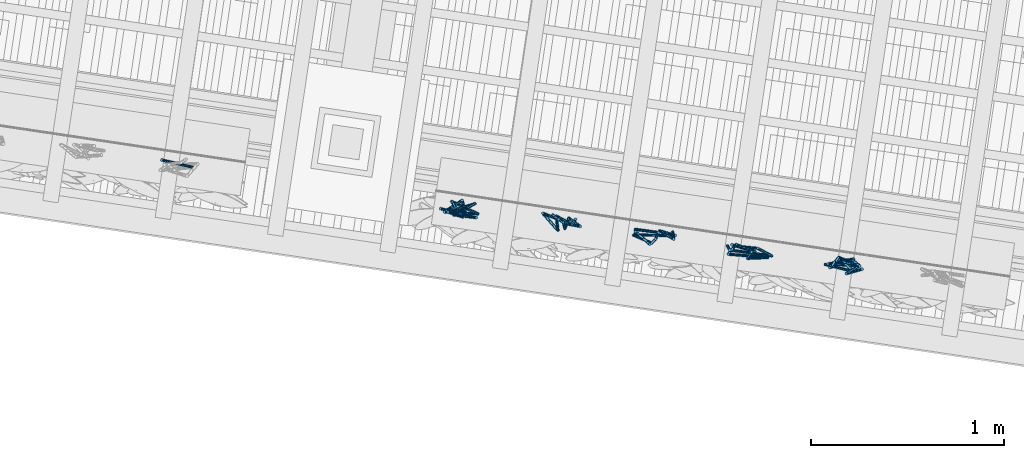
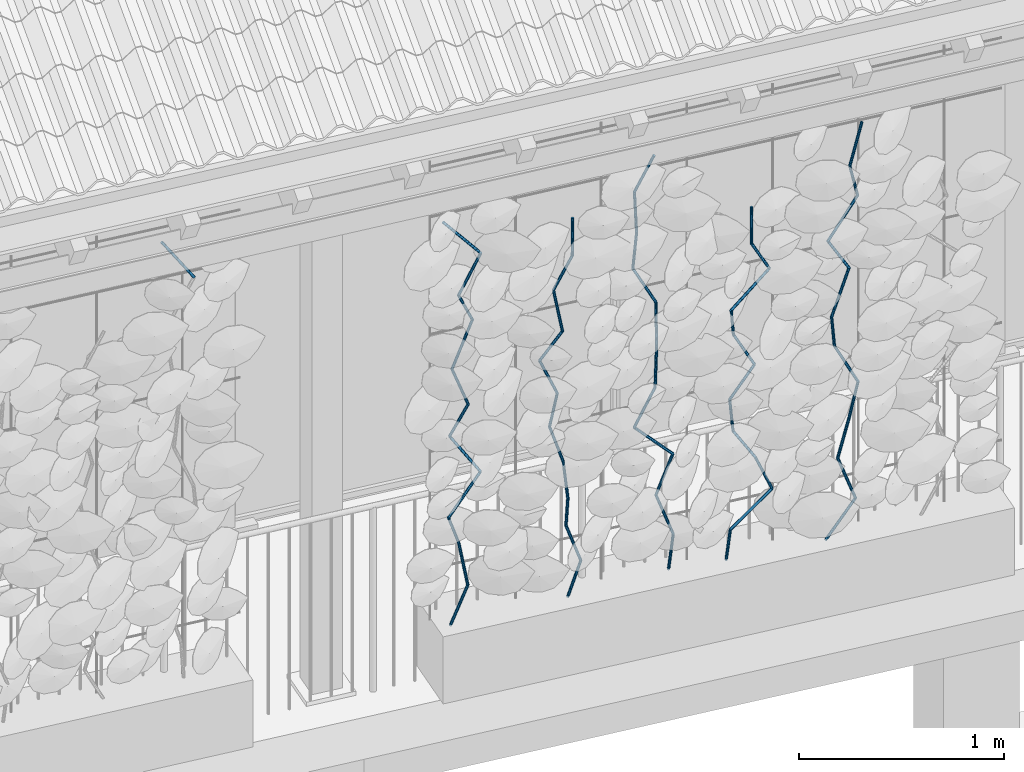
# One storey, part 111 of 131: 56 members, 1 element without a shape of its own.
"""IFC4 building model written with IfcOpenShell, lengths in metres."""

from ifc_helpers import new_model, si_unit, direction, frame, origin_with_axes, place, context, subcontext, project, spatial, circle, extrude, material, material_profile, profile_set, profile_usage, type_object, element, aggregate, save


model = new_model("IFC4")

# Units and contexts
model_context = context("Model", 3, precision=1e-05, world=origin_with_axes(), true_north=direction((0.0, 1.0)))
body_context = subcontext(model_context, "Body", "Model", "MODEL_VIEW")
ifc_project = project(units=[si_unit("VOLUMEUNIT", "CUBIC_METRE"), si_unit("LENGTHUNIT", "METRE"), si_unit("AREAUNIT", "SQUARE_METRE")], contexts=[model_context])

# Site, building, storey
site_placement = place(None, origin_with_axes())
site = spatial("IfcSite", under=ifc_project, at=site_placement, Name="Lares · Rua das Mercês · artigo 4771")
building_placement = place(site_placement, frame((15.0, 9.7, 15.8), z_axis=(0.0, 0.0, 1.0), x_axis=(0.989015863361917, -0.147809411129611, 0.0)))
building = spatial("IfcBuilding", under=site, at=building_placement, Name="Casa Sobreposta")
storey_placement = place(building_placement, origin_with_axes())
storey = spatial("IfcBuildingStorey", under=building, at=storey_placement, Name="00 · Habitação e estacionamento", Elevation=15.8)

# Assembly, members
assembly_placement = place(storey_placement, origin_with_axes())
assembly = element("IfcElementAssembly", 1, at=assembly_placement, inside=storey, Name="Fachada sul e pátio · estrutura e trepadeiras", ObjectType="LIVING_SHADE_TRELLIS", PredefinedType="USERDEFINED")
ifc_material = material(Name="Ramos de trepadeiras", Category="wood")
ifc_material_profile = material_profile(ifc_material, circle(Radius=0.0075))
ifc_profile_set = profile_set([ifc_material_profile], Name="D0.015")
ifc_profile_usage_1 = profile_usage(ifc_profile_set)
member_type = type_object("IfcMemberType", Name="D0.015 / vine_wood", PredefinedType="NOTDEFINED", material=ifc_profile_set)
member_1_placement = place(assembly_placement, frame((7.23474706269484, -1.67516306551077, 2.75997895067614), z_axis=(-0.561074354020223, 0.0463893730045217, 0.826464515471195), x_axis=(0.0823983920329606, 0.996599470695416, 0.0)))
member_1 = element("IfcMember", 2, at=member_1_placement, type_object=member_type, material=ifc_profile_usage_1, Name="Trepadeiras · ramo", context=body_context, shape_type="SweptSolid", body=[
    extrude(circle(Radius=0.0075), origin_with_axes(), (0.0, 0.0, 1.0), 0.29160101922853),
])
ifc_profile_usage_2 = profile_usage(ifc_profile_set)
member_2_placement = place(assembly_placement, frame((8.57260770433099, -1.69487939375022, 0.35), z_axis=(0.387109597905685, -0.00148647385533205, 0.922032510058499), x_axis=(-0.00383990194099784, -0.999992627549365, 0.0)))
member_2 = element("IfcMember", 3, at=member_2_placement, type_object=member_type, material=ifc_profile_usage_2, Name="Trepadeiras · ramo", context=body_context, shape_type="SweptSolid", body=[
    extrude(circle(Radius=0.0075), origin_with_axes(), (0.0, 0.0, 1.0), 0.23837097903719),
])
ifc_profile_usage_3 = profile_usage(ifc_profile_set)
member_3_placement = place(assembly_placement, frame((8.66488339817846, -1.69523372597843, 0.569785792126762), z_axis=(-0.111886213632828, 0.247324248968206, 0.962451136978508), x_axis=(0.911105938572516, 0.412172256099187, 0.0)))
member_3 = element("IfcMember", 4, at=member_3_placement, type_object=member_type, material=ifc_profile_usage_3, Name="Trepadeiras · ramo", context=body_context, shape_type="SweptSolid", body=[
    extrude(circle(Radius=0.0075), origin_with_axes(), (0.0, 0.0, 1.0), 0.228360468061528),
])
ifc_profile_usage_4 = profile_usage(ifc_profile_set)
member_4_placement = place(assembly_placement, frame((8.63933301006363, -1.63875464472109, 0.789571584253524), z_axis=(-0.334534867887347, -0.296332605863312, 0.894580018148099), x_axis=(-0.663073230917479, 0.748554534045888, 0.0)))
member_4 = element("IfcMember", 5, at=member_4_placement, type_object=member_type, material=ifc_profile_usage_4, Name="Trepadeiras · ramo", context=body_context, shape_type="SweptSolid", body=[
    extrude(circle(Radius=0.0075), origin_with_axes(), (0.0, 0.0, 1.0), 0.245686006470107),
])
ifc_profile_usage_5 = profile_usage(ifc_profile_set)
member_5_placement = place(assembly_placement, frame((8.55714247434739, -1.71155941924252, 1.00935737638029), z_axis=(0.619826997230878, 0.0569296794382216, 0.782670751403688), x_axis=(0.0914627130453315, -0.99580850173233, 0.0)))
member_5 = element("IfcMember", 6, at=member_5_placement, type_object=member_type, material=ifc_profile_usage_5, Name="Trepadeiras · ramo", context=body_context, shape_type="SweptSolid", body=[
    extrude(circle(Radius=0.0075), origin_with_axes(), (0.0, 0.0, 1.0), 0.280815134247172),
])
ifc_profile_usage_6 = profile_usage(ifc_profile_set)
member_6_placement = place(assembly_placement, frame((8.7311992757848, -1.69557270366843, 1.22914316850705), z_axis=(-0.543524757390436, 0.163952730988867, 0.823225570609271), x_axis=(0.288794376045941, 0.957391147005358, 0.0)))
member_6 = element("IfcMember", 7, at=member_6_placement, type_object=member_type, material=ifc_profile_usage_6, Name="Trepadeiras · ramo", context=body_context, shape_type="SweptSolid", body=[
    extrude(circle(Radius=0.0075), origin_with_axes(), (0.0, 0.0, 1.0), 0.266981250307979),
])
ifc_profile_usage_7 = profile_usage(ifc_profile_set)
member_7_placement = place(assembly_placement, frame((8.58608835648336, -1.65180039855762, 1.44892896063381), z_axis=(0.287938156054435, -0.297150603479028, 0.910380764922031), x_axis=(-0.718151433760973, -0.69588685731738, 0.0)))
member_7 = element("IfcMember", 8, at=member_7_placement, type_object=member_type, material=ifc_profile_usage_7, Name="Trepadeiras · ramo", context=body_context, shape_type="SweptSolid", body=[
    extrude(circle(Radius=0.0075), origin_with_axes(), (0.0, 0.0, 1.0), 0.241421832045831),
])
ifc_profile_usage_8 = profile_usage(ifc_profile_set)
member_8_placement = place(assembly_placement, frame((8.65560291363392, -1.72353904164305, 1.66871475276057), z_axis=(-0.339136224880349, 0.0610326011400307, 0.938755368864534), x_axis=(0.177119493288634, 0.9841893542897, 0.0)))
member_8 = element("IfcMember", 9, at=member_8_placement, type_object=member_type, material=ifc_profile_usage_8, Name="Trepadeiras · ramo", context=body_context, shape_type="SweptSolid", body=[
    extrude(circle(Radius=0.0075), origin_with_axes(), (0.0, 0.0, 1.0), 0.234124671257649),
])
ifc_profile_usage_9 = profile_usage(ifc_profile_set)
member_9_placement = place(assembly_placement, frame((8.57620275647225, -1.70924980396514, 1.88850054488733), z_axis=(0.500498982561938, 0.242565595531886, 0.831061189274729), x_axis=(0.436127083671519, -0.899885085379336, 0.0)))
member_9 = element("IfcMember", 10, at=member_9_placement, type_object=member_type, material=ifc_profile_usage_9, Name="Trepadeiras · ramo", context=body_context, shape_type="SweptSolid", body=[
    extrude(circle(Radius=0.0075), origin_with_axes(), (0.0, 0.0, 1.0), 0.264464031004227),
])
ifc_profile_usage_10 = profile_usage(ifc_profile_set)
member_10_placement = place(assembly_placement, frame((8.70856673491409, -1.64509992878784, 2.1082863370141), z_axis=(-0.401855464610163, -0.29322403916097, 0.867485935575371), x_axis=(-0.589440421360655, 0.807811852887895, 2.42004269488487e-17)))
member_10 = element("IfcMember", 11, at=member_10_placement, type_object=member_type, material=ifc_profile_usage_10, Name="Trepadeiras · ramo", context=body_context, shape_type="SweptSolid", body=[
    extrude(circle(Radius=0.0075), origin_with_axes(), (0.0, 0.0, 1.0), 0.253359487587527),
])
ifc_profile_usage_11 = profile_usage(ifc_profile_set)
member_11_placement = place(assembly_placement, frame((8.60675284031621, -1.719391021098, 2.32807212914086), z_axis=(0.474109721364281, 0.0126002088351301, 0.880375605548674), x_axis=(0.026567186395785, -0.999647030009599, 0.0)))
member_11 = element("IfcMember", 12, at=member_11_placement, type_object=member_type, material=ifc_profile_usage_11, Name="Trepadeiras · ramo", context=body_context, shape_type="SweptSolid", body=[
    extrude(circle(Radius=0.0075), origin_with_axes(), (0.0, 0.0, 1.0), 0.249650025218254),
])
ifc_profile_usage_12 = profile_usage(ifc_profile_set)
member_12_placement = place(assembly_placement, frame((8.72511434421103, -1.71624537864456, 2.54785792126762), z_axis=(-0.653038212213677, 0.0653463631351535, 0.754500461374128), x_axis=(0.0995678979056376, 0.995030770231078, 0.0)))
member_12 = element("IfcMember", 13, at=member_12_placement, type_object=member_type, material=ifc_profile_usage_12, Name="Trepadeiras · ramo", context=body_context, shape_type="SweptSolid", body=[
    extrude(circle(Radius=0.0075), origin_with_axes(), (0.0, 0.0, 1.0), 0.291299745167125),
])
ifc_profile_usage_13 = profile_usage(ifc_profile_set)
member_13_placement = place(assembly_placement, frame((9.19555170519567, -1.67878128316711, 0.35), z_axis=(0.318258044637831, -0.012888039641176, 0.947916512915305), x_axis=(-0.0404624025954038, -0.9991810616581, 2.58128021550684e-18)))
member_13 = element("IfcMember", 14, at=member_13_placement, type_object=member_type, material=ifc_profile_usage_13, Name="Trepadeiras · ramo", context=body_context, shape_type="SweptSolid", body=[
    extrude(circle(Radius=0.0075), origin_with_axes(), (0.0, 0.0, 1.0), 0.214174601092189),
])
ifc_profile_usage_14 = profile_usage(ifc_profile_set)
member_14_placement = place(assembly_placement, frame((9.26371449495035, -1.68154157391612, 0.553019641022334), z_axis=(-0.299327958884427, 0.157242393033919, 0.941104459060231), x_axis=(0.465054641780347, 0.885281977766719, 0.0)))
member_14 = element("IfcMember", 15, at=member_14_placement, type_object=member_type, material=ifc_profile_usage_14, Name="Trepadeiras · ramo", context=body_context, shape_type="SweptSolid", body=[
    extrude(circle(Radius=0.0075), origin_with_axes(), (0.0, 0.0, 1.0), 0.215724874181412),
])
ifc_profile_usage_15 = profile_usage(ifc_profile_set)
member_15_placement = place(assembly_placement, frame((9.19914200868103, -1.64762047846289, 0.756039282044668), z_axis=(-0.058883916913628, -0.269381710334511, 0.961231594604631), x_axis=(-0.976932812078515, 0.213546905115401, 0.0)))
member_15 = element("IfcMember", 16, at=member_15_placement, type_object=member_type, material=ifc_profile_usage_15, Name="Trepadeiras · ramo", context=body_context, shape_type="SweptSolid", body=[
    extrude(circle(Radius=0.0075), origin_with_axes(), (0.0, 0.0, 1.0), 0.211207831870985),
])
ifc_profile_usage_16 = profile_usage(ifc_profile_set)
member_16_placement = place(assembly_placement, frame((9.18670526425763, -1.70451600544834, 0.959058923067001), z_axis=(-0.0618656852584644, 0.149417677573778, 0.986836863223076), x_axis=(0.923934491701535, 0.382550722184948, 0.0)))
member_16 = element("IfcMember", 17, at=member_16_placement, type_object=member_type, material=ifc_profile_usage_16, Name="Trepadeiras · ramo", context=body_context, shape_type="SweptSolid", body=[
    extrude(circle(Radius=0.0075), origin_with_axes(), (0.0, 0.0, 1.0), 0.205727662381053),
])
ifc_profile_usage_17 = profile_usage(ifc_profile_set)
member_17_placement = place(assembly_placement, frame((9.17397778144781, -1.67377665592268, 1.16207856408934), z_axis=(-0.279521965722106, 0.13950094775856, 0.949951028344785), x_axis=(0.446547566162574, 0.894759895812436, 0.0)))
member_17 = element("IfcMember", 18, at=member_17_placement, type_object=member_type, material=ifc_profile_usage_17, Name="Trepadeiras · ramo", context=body_context, shape_type="SweptSolid", body=[
    extrude(circle(Radius=0.0075), origin_with_axes(), (0.0, 0.0, 1.0), 0.213715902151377),
])
ifc_profile_usage_18 = profile_usage(ifc_profile_set)
member_18_placement = place(assembly_placement, frame((9.11423949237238, -1.64396308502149, 1.36509820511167), z_axis=(0.161935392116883, -0.0887500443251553, 0.982802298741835), x_axis=(-0.480610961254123, -0.876933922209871, 0.0)))
member_18 = element("IfcMember", 19, at=member_18_placement, type_object=member_type, material=ifc_profile_usage_18, Name="Trepadeiras · ramo", context=body_context, shape_type="SweptSolid", body=[
    extrude(circle(Radius=0.0075), origin_with_axes(), (0.0, 0.0, 1.0), 0.206572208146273),
])
ifc_profile_usage_19 = profile_usage(ifc_profile_set)
member_19_placement = place(assembly_placement, frame((9.147690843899, -1.66229637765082, 1.568117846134), z_axis=(-0.385174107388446, 0.0889285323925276, 0.918549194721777), x_axis=(0.224960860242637, 0.974367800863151, 0.0)))
member_19 = element("IfcMember", 20, at=member_19_placement, type_object=member_type, material=ifc_profile_usage_19, Name="Trepadeiras · ramo", context=body_context, shape_type="SweptSolid", body=[
    extrude(circle(Radius=0.0075), origin_with_axes(), (0.0, 0.0, 1.0), 0.221022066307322),
])
ifc_profile_usage_20 = profile_usage(ifc_profile_set)
member_20_placement = place(assembly_placement, frame((9.06255886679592, -1.64264120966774, 1.77113748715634), z_axis=(0.383724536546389, -0.325141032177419, 0.864314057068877), x_axis=(-0.64646469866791, -0.762943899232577, 0.0)))
member_20 = element("IfcMember", 21, at=member_20_placement, type_object=member_type, material=ifc_profile_usage_20, Name="Trepadeiras · ramo", context=body_context, shape_type="SweptSolid", body=[
    extrude(circle(Radius=0.0075), origin_with_axes(), (0.0, 0.0, 1.0), 0.234891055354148),
])
ifc_profile_usage_21 = profile_usage(ifc_profile_set)
member_21_placement = place(assembly_placement, frame((9.15269232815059, -1.71901392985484, 1.97415712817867), z_axis=(-0.0885627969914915, 0.334741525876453, 0.93813897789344), x_axis=(0.966737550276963, 0.255770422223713, 0.0)))
member_21 = element("IfcMember", 22, at=member_21_placement, type_object=member_type, material=ifc_profile_usage_21, Name="Trepadeiras · ramo", context=body_context, shape_type="SweptSolid", body=[
    extrude(circle(Radius=0.0075), origin_with_axes(), (0.0, 0.0, 1.0), 0.216406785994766),
])
ifc_profile_usage_22 = profile_usage(ifc_profile_set)
member_22_placement = place(assembly_placement, frame((9.13352673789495, -1.64657359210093, 2.177176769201), z_axis=(0.387667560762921, -0.142815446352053, 0.910668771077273), x_axis=(-0.34568523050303, -0.938350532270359, 0.0)))
member_22 = element("IfcMember", 23, at=member_22_placement, type_object=member_type, material=ifc_profile_usage_22, Name="Trepadeiras · ramo", context=body_context, shape_type="SweptSolid", body=[
    extrude(circle(Radius=0.0075), origin_with_axes(), (0.0, 0.0, 1.0), 0.222934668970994),
])
ifc_profile_usage_23 = profile_usage(ifc_profile_set)
member_23_placement = place(assembly_placement, frame((9.21995127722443, -1.67841210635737, 2.38019641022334), z_axis=(0.0696493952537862, 0.146990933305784, 0.986682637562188), x_axis=(0.903685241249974, -0.428197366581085, 0.0)))
member_23 = element("IfcMember", 24, at=member_23_placement, type_object=member_type, material=ifc_profile_usage_23, Name="Trepadeiras · ramo", context=body_context, shape_type="SweptSolid", body=[
    extrude(circle(Radius=0.0075), origin_with_axes(), (0.0, 0.0, 1.0), 0.205759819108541),
])
ifc_profile_usage_24 = profile_usage(ifc_profile_set)
member_24_placement = place(assembly_placement, frame((9.74112127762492, -1.63887906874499, 0.35), z_axis=(0.0453912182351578, -0.153199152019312, 0.987152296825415), x_axis=(-0.958800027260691, -0.28408186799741, 0.0)))
member_24 = element("IfcMember", 25, at=member_24_placement, type_object=member_type, material=ifc_profile_usage_24, Name="Trepadeiras · ramo", context=body_context, shape_type="SweptSolid", body=[
    extrude(circle(Radius=0.0075), origin_with_axes(), (0.0, 0.0, 1.0), 0.234813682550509),
])
ifc_profile_usage_25 = profile_usage(ifc_profile_set)
member_25_placement = place(assembly_placement, frame((9.75177975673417, -1.67485232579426, 0.581796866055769), z_axis=(-0.318166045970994, 0.127586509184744, 0.93941047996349), x_axis=(0.37219551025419, 0.928154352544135, 0.0)))
member_25 = element("IfcMember", 26, at=member_25_placement, type_object=member_type, material=ifc_profile_usage_25, Name="Trepadeiras · ramo", context=body_context, shape_type="SweptSolid", body=[
    extrude(circle(Radius=0.0075), origin_with_axes(), (0.0, 0.0, 1.0), 0.246747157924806),
])
ifc_profile_usage_26 = profile_usage(ifc_profile_set)
member_26_placement = place(assembly_placement, frame((9.67327318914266, -1.64337071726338, 0.813593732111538), z_axis=(0.340802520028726, -0.0476376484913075, 0.938927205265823), x_axis=(-0.138434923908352, -0.990371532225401, 0.0)))
member_26 = element("IfcMember", 27, at=member_26_placement, type_object=member_type, material=ifc_profile_usage_26, Name="Trepadeiras · ramo", context=body_context, shape_type="SweptSolid", body=[
    extrude(circle(Radius=0.0075), origin_with_axes(), (0.0, 0.0, 1.0), 0.246874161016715),
])
ifc_profile_usage_27 = profile_usage(ifc_profile_set)
member_27_placement = place(assembly_placement, frame((9.75740852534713, -1.65513122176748, 1.04539059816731), z_axis=(-0.676152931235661, -0.0943361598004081, 0.730696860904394), x_axis=(-0.138180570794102, 0.990407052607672, 0.0)))
member_27 = element("IfcMember", 28, at=member_27_placement, type_object=member_type, material=ifc_profile_usage_27, Name="Trepadeiras · ramo", context=body_context, shape_type="SweptSolid", body=[
    extrude(circle(Radius=0.0075), origin_with_axes(), (0.0, 0.0, 1.0), 0.317227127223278),
])
ifc_profile_usage_28 = profile_usage(ifc_profile_set)
member_28_placement = place(assembly_placement, frame((9.54291447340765, -1.68505721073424, 1.27718746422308), z_axis=(0.390104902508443, -0.1070347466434, 0.914528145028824), x_axis=(-0.264595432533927, -0.964359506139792, 0.0)))
member_28 = element("IfcMember", 29, at=member_28_placement, type_object=member_type, material=ifc_profile_usage_28, Name="Trepadeiras · ramo", context=body_context, shape_type="SweptSolid", body=[
    extrude(circle(Radius=0.0075), origin_with_axes(), (0.0, 0.0, 1.0), 0.253460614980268),
])
ifc_profile_usage_29 = profile_usage(ifc_profile_set)
member_29_placement = place(assembly_placement, frame((9.64179070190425, -1.71218630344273, 1.50898433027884), z_axis=(0.0748317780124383, 0.101112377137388, 0.992056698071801), x_axis=(0.803809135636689, -0.594887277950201, 0.0)))
member_29 = element("IfcMember", 30, at=member_29_placement, type_object=member_type, material=ifc_profile_usage_29, Name="Trepadeiras · ramo", context=body_context, shape_type="SweptSolid", body=[
    extrude(circle(Radius=0.0075), origin_with_axes(), (0.0, 0.0, 1.0), 0.23365284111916),
])
ifc_profile_usage_30 = profile_usage(ifc_profile_set)
member_30_placement = place(assembly_placement, frame((9.65927535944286, -1.68856110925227, 1.74078119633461), z_axis=(0.0400911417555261, 0.152524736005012, 0.987486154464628), x_axis=(0.967147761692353, -0.254214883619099, 0.0)))
member_30 = element("IfcMember", 31, at=member_30_placement, type_object=member_type, material=ifc_profile_usage_30, Name="Trepadeiras · ramo", context=body_context, shape_type="SweptSolid", body=[
    extrude(circle(Radius=0.0075), origin_with_axes(), (0.0, 0.0, 1.0), 0.234734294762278),
])
ifc_profile_usage_31 = profile_usage(ifc_profile_set)
member_31_placement = place(assembly_placement, frame((9.66868612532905, -1.65275832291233, 1.97257806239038), z_axis=(-0.463480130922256, -0.00724472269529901, 0.886077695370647), x_axis=(-0.01562923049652, 0.999877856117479, 0.0)))
member_31 = element("IfcMember", 32, at=member_31_placement, type_object=member_type, material=ifc_profile_usage_31, Name="Trepadeiras · ramo", context=body_context, shape_type="SweptSolid", body=[
    extrude(circle(Radius=0.0075), origin_with_axes(), (0.0, 0.0, 1.0), 0.261598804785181),
])
ifc_profile_usage_32 = profile_usage(ifc_profile_set)
member_32_placement = place(assembly_placement, frame((9.54744027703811, -1.65465353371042, 2.20437492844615), z_axis=(0.0328627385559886, -0.130763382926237, 0.990868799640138), x_axis=(-0.969841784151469, -0.243735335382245, 0.0)))
member_32 = element("IfcMember", 33, at=member_32_placement, type_object=member_type, material=ifc_profile_usage_32, Name="Trepadeiras · ramo", context=body_context, shape_type="SweptSolid", body=[
    extrude(circle(Radius=0.0075), origin_with_axes(), (0.0, 0.0, 1.0), 0.23393295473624),
])
ifc_profile_usage_33 = profile_usage(ifc_profile_set)
member_33_placement = place(assembly_placement, frame((9.55512795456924, -1.68524339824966, 2.43617179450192), z_axis=(-0.0170006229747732, 0.0806829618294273, 0.996594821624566), x_axis=(0.978513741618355, 0.206181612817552, 0.0)))
member_33 = element("IfcMember", 34, at=member_33_placement, type_object=member_type, material=ifc_profile_usage_33, Name="Trepadeiras · ramo", context=body_context, shape_type="SweptSolid", body=[
    extrude(circle(Radius=0.0075), origin_with_axes(), (0.0, 0.0, 1.0), 0.232588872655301),
])
ifc_profile_usage_34 = profile_usage(ifc_profile_set)
member_34_placement = place(assembly_placement, frame((9.5511737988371, -1.66647743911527, 2.66796866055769), z_axis=(0.327277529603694, -0.210771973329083, 0.92112137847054), x_axis=(-0.54144681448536, -0.840735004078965, 3.28382531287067e-17)))
member_34 = element("IfcMember", 35, at=member_34_placement, type_object=member_type, material=ifc_profile_usage_34, Name="Trepadeiras · ramo", context=body_context, shape_type="SweptSolid", body=[
    extrude(circle(Radius=0.0075), origin_with_axes(), (0.0, 0.0, 1.0), 0.251646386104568),
])
ifc_profile_usage_35 = profile_usage(ifc_profile_set)
member_35_placement = place(assembly_placement, frame((10.0322840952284, -1.66794075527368, 0.35), z_axis=(0.0734242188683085, -0.105281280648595, 0.991728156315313), x_axis=(-0.820228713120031, -0.572035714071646, 0.0)))
member_35 = element("IfcMember", 36, at=member_35_placement, type_object=member_type, material=ifc_profile_usage_35, Name="Trepadeiras · ramo", context=body_context, shape_type="SweptSolid", body=[
    extrude(circle(Radius=0.0075), origin_with_axes(), (0.0, 0.0, 1.0), 0.190846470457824),
])
ifc_profile_usage_36 = profile_usage(ifc_profile_set)
member_36_placement = place(assembly_placement, frame((10.0462968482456, -1.68803331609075, 0.539267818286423), z_axis=(0.758571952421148, 0.00704599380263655, 0.651551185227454), x_axis=(0.00928809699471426, -0.999956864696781, 0.0)))
member_36 = element("IfcMember", 37, at=member_36_placement, type_object=member_type, material=ifc_profile_usage_36, Name="Trepadeiras · ramo", context=body_context, shape_type="SweptSolid", body=[
    extrude(circle(Radius=0.0075), origin_with_axes(), (0.0, 0.0, 1.0), 0.290488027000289),
])
ifc_profile_usage_37 = profile_usage(ifc_profile_set)
member_37_placement = place(assembly_placement, frame((10.2666529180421, -1.68598653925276, 0.728535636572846), z_axis=(-0.377309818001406, 0.134851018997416, 0.916216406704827), x_axis=(0.336552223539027, 0.941664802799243, 0.0)))
member_37 = element("IfcMember", 38, at=member_37_placement, type_object=member_type, material=ifc_profile_usage_37, Name="Trepadeiras · ramo", context=body_context, shape_type="SweptSolid", body=[
    extrude(circle(Radius=0.0075), origin_with_axes(), (0.0, 0.0, 1.0), 0.206575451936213),
])
ifc_profile_usage_38 = profile_usage(ifc_profile_set)
member_38_placement = place(assembly_placement, frame((10.1887099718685, -1.65812962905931, 0.917803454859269), z_axis=(-0.530574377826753, -0.0264164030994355, 0.847226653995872), x_axis=(-0.049726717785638, 0.998762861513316, 0.0)))
member_38 = element("IfcMember", 39, at=member_38_placement, type_object=member_type, material=ifc_profile_usage_38, Name="Trepadeiras · ramo", context=body_context, shape_type="SweptSolid", body=[
    extrude(circle(Radius=0.0075), origin_with_axes(), (0.0, 0.0, 1.0), 0.223396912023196),
])
ifc_profile_usage_39 = profile_usage(ifc_profile_set)
member_39_placement = place(assembly_placement, frame((10.0701812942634, -1.66403097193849, 1.10707127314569), z_axis=(-0.0842012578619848, 0.0220395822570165, 0.996205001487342), x_axis=(0.253218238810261, 0.967409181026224, 0.0)))
member_39 = element("IfcMember", 40, at=member_39_placement, type_object=member_type, material=ifc_profile_usage_39, Name="Trepadeiras · ramo", context=body_context, shape_type="SweptSolid", body=[
    extrude(circle(Radius=0.0075), origin_with_axes(), (0.0, 0.0, 1.0), 0.189988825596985),
])
ifc_profile_usage_40 = profile_usage(ifc_profile_set)
member_40_placement = place(assembly_placement, frame((10.0541839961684, -1.65984369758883, 1.29633909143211), z_axis=(0.545007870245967, -0.0769728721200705, 0.834890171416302), x_axis=(-0.139844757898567, -0.990173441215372, 0.0)))
member_40 = element("IfcMember", 41, at=member_40_placement, type_object=member_type, material=ifc_profile_usage_40, Name="Trepadeiras · ramo", context=body_context, shape_type="SweptSolid", body=[
    extrude(circle(Radius=0.0075), origin_with_axes(), (0.0, 0.0, 1.0), 0.226697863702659),
])
ifc_profile_usage_41 = profile_usage(ifc_profile_set)
member_41_placement = place(assembly_placement, frame((10.1777361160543, -1.67729328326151, 1.48560690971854), z_axis=(-0.472023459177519, 0.103510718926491, 0.875488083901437), x_axis=(0.2142016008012, 0.976789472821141, 0.0)))
member_41 = element("IfcMember", 42, at=member_41_placement, type_object=member_type, material=ifc_profile_usage_41, Name="Trepadeiras · ramo", context=body_context, shape_type="SweptSolid", body=[
    extrude(circle(Radius=0.0075), origin_with_axes(), (0.0, 0.0, 1.0), 0.216185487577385),
])
ifc_profile_usage_42 = profile_usage(ifc_profile_set)
member_42_placement = place(assembly_placement, frame((10.075691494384, -1.6549157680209, 1.67487472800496), z_axis=(-0.167670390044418, -0.277529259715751, 0.945972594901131), x_axis=(-0.855920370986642, 0.517107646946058, 0.0)))
member_42 = element("IfcMember", 43, at=member_42_placement, type_object=member_type, material=ifc_profile_usage_42, Name="Trepadeiras · ramo", context=body_context, shape_type="SweptSolid", body=[
    extrude(circle(Radius=0.0075), origin_with_axes(), (0.0, 0.0, 1.0), 0.200077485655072),
])
ifc_profile_usage_43 = profile_usage(ifc_profile_set)
member_43_placement = place(assembly_placement, frame((10.0421444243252, -1.71044312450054, 1.86414254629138), z_axis=(0.735404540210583, 0.0473846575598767, 0.675969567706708), x_axis=(0.0643001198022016, -0.997930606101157, 0.0)))
member_43 = element("IfcMember", 44, at=member_43_placement, type_object=member_type, material=ifc_profile_usage_43, Name="Trepadeiras · ramo", context=body_context, shape_type="SweptSolid", body=[
    extrude(circle(Radius=0.0075), origin_with_axes(), (0.0, 0.0, 1.0), 0.279994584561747),
])
ifc_profile_usage_44 = profile_usage(ifc_profile_set)
member_44_placement = place(assembly_placement, frame((10.2480537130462, -1.69717567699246, 2.05341036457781), z_axis=(-0.475026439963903, -0.0921827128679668, 0.875129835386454), x_axis=(-0.190504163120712, 0.981686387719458, 0.0)))
member_44 = element("IfcMember", 45, at=member_44_placement, type_object=member_type, material=ifc_profile_usage_44, Name="Trepadeiras · ramo", context=body_context, shape_type="SweptSolid", body=[
    extrude(circle(Radius=0.0075), origin_with_axes(), (0.0, 0.0, 1.0), 0.216273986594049),
])
ifc_profile_usage_45 = profile_usage(ifc_profile_set)
member_45_placement = place(assembly_placement, frame((10.1453178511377, -1.71711239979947, 2.24267818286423), z_axis=(0.0786417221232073, 0.18707443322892, 0.979192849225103), x_axis=(0.92185809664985, -0.387527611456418, 0.0)))
member_45 = element("IfcMember", 46, at=member_45_placement, type_object=member_type, material=ifc_profile_usage_45, Name="Trepadeiras · ramo", context=body_context, shape_type="SweptSolid", body=[
    extrude(circle(Radius=0.0075), origin_with_axes(), (0.0, 0.0, 1.0), 0.193289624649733),
])
ifc_profile_usage_46 = profile_usage(ifc_profile_set)
member_46_placement = place(assembly_placement, frame((10.5459835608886, -1.68860823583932, 0.35), z_axis=(0.563765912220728, -0.054509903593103, 0.824133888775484), x_axis=(-0.0962400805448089, -0.995358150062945, 0.0)))
member_46 = element("IfcMember", 47, at=member_46_placement, type_object=member_type, material=ifc_profile_usage_46, Name="Trepadeiras · ramo", context=body_context, shape_type="SweptSolid", body=[
    extrude(circle(Radius=0.0075), origin_with_axes(), (0.0, 0.0, 1.0), 0.269569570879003),
])
ifc_profile_usage_47 = profile_usage(ifc_profile_set)
member_47_placement = place(assembly_placement, frame((10.6979576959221, -1.70330244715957, 0.572161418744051), z_axis=(-0.306550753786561, 0.215334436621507, 0.927177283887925), x_axis=(0.574803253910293, 0.818291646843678, 0.0)))
member_47 = element("IfcMember", 48, at=member_47_placement, type_object=member_type, material=ifc_profile_usage_47, Name="Trepadeiras · ramo", context=body_context, shape_type="SweptSolid", body=[
    extrude(circle(Radius=0.0075), origin_with_axes(), (0.0, 0.0, 1.0), 0.239610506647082),
])
ifc_profile_usage_48 = profile_usage(ifc_profile_set)
member_48_placement = place(assembly_placement, frame((10.6245049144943, -1.65170605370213, 0.794322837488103), z_axis=(0.268244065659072, 0.0205784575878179, 0.963131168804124), x_axis=(0.0764906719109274, -0.997070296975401, 0.0)))
member_48 = element("IfcMember", 49, at=member_48_placement, type_object=member_type, material=ifc_profile_usage_48, Name="Trepadeiras · ramo", context=body_context, shape_type="SweptSolid", body=[
    extrude(circle(Radius=0.0075), origin_with_axes(), (0.0, 0.0, 1.0), 0.230665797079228),
])
ifc_profile_usage_49 = profile_usage(ifc_profile_set)
member_49_placement = place(assembly_placement, frame((10.6863796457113, -1.64695930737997, 1.01648425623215), z_axis=(0.167091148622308, -0.102667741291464, 0.980581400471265), x_axis=(-0.523514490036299, -0.85201677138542, 0.0)))
member_49 = element("IfcMember", 50, at=member_49_placement, type_object=member_type, material=ifc_profile_usage_49, Name="Trepadeiras · ramo", context=body_context, shape_type="SweptSolid", body=[
    extrude(circle(Radius=0.0075), origin_with_axes(), (0.0, 0.0, 1.0), 0.22656091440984),
])
ifc_profile_usage_50 = profile_usage(ifc_profile_set)
member_50_placement = place(assembly_placement, frame((10.724235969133, -1.67021980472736, 1.23864567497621), z_axis=(-0.450256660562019, 0.110456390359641, 0.886040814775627), x_axis=(0.238254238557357, 0.971202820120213, 0.0)))
member_50 = element("IfcMember", 51, at=member_50_placement, type_object=member_type, material=ifc_profile_usage_50, Name="Trepadeiras · ramo", context=body_context, shape_type="SweptSolid", body=[
    extrude(circle(Radius=0.0075), origin_with_axes(), (0.0, 0.0, 1.0), 0.250734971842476),
])
ifc_profile_usage_51 = profile_usage(ifc_profile_set)
member_51_placement = place(assembly_placement, frame((10.6113408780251, -1.64252452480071, 1.46080709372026), z_axis=(-0.165076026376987, -0.254000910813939, 0.953012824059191), x_axis=(-0.838480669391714, 0.544931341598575, 0.0)))
member_51 = element("IfcMember", 52, at=member_51_placement, type_object=member_type, material=ifc_profile_usage_51, Name="Trepadeiras · ramo", context=body_context, shape_type="SweptSolid", body=[
    extrude(circle(Radius=0.0075), origin_with_axes(), (0.0, 0.0, 1.0), 0.23311482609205),
])
ifc_profile_usage_52 = profile_usage(ifc_profile_set)
member_52_placement = place(assembly_placement, frame((10.5728592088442, -1.70173590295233, 1.68296851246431), z_axis=(0.450323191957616, 0.243569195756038, 0.859001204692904), x_axis=(0.475745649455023, -0.879582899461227, 0.0)))
member_52 = element("IfcMember", 53, at=member_52_placement, type_object=member_type, material=ifc_profile_usage_52, Name="Trepadeiras · ramo", context=body_context, shape_type="SweptSolid", body=[
    extrude(circle(Radius=0.0075), origin_with_axes(), (0.0, 0.0, 1.0), 0.258627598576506),
])
ifc_profile_usage_53 = profile_usage(ifc_profile_set)
member_53_placement = place(assembly_placement, frame((10.6893252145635, -1.63874218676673, 1.90512993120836), z_axis=(-0.494124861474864, -0.17570853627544, 0.851450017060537), x_axis=(-0.33504301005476, 0.942202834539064, 0.0)))
member_53 = element("IfcMember", 54, at=member_53_placement, type_object=member_type, material=ifc_profile_usage_53, Name="Trepadeiras · ramo", context=body_context, shape_type="SweptSolid", body=[
    extrude(circle(Radius=0.0075), origin_with_axes(), (0.0, 0.0, 1.0), 0.260921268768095),
])
ifc_profile_usage_54 = profile_usage(ifc_profile_set)
member_54_placement = place(assembly_placement, frame((10.5603975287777, -1.68458828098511, 2.12729134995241), z_axis=(0.588590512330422, 0.0547468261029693, 0.806575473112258), x_axis=(0.0926136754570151, -0.99570211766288, 0.0)))
member_54 = element("IfcMember", 55, at=member_54_placement, type_object=member_type, material=ifc_profile_usage_54, Name="Trepadeiras · ramo", context=body_context, shape_type="SweptSolid", body=[
    extrude(circle(Radius=0.0075), origin_with_axes(), (0.0, 0.0, 1.0), 0.275437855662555),
])
ifc_profile_usage_55 = profile_usage(ifc_profile_set)
member_55_placement = place(assembly_placement, frame((10.7225176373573, -1.66950893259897, 2.34945276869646), z_axis=(-0.259159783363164, -0.212743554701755, 0.942112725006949), x_axis=(-0.634494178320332, 0.77292764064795, -1.94968453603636e-17)))
member_55 = element("IfcMember", 56, at=member_55_placement, type_object=member_type, material=ifc_profile_usage_55, Name="Trepadeiras · ramo", context=body_context, shape_type="SweptSolid", body=[
    extrude(circle(Radius=0.0075), origin_with_axes(), (0.0, 0.0, 1.0), 0.235811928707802),
])
ifc_profile_usage_56 = profile_usage(ifc_profile_set)
member_56_placement = place(assembly_placement, frame((10.6614046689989, -1.71967640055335, 2.57161418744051), z_axis=(0.326421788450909, 0.146883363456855, 0.933741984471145), x_axis=(0.410349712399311, -0.911928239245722, 0.0)))
member_56 = element("IfcMember", 57, at=member_56_placement, type_object=member_type, material=ifc_profile_usage_56, Name="Trepadeiras · ramo", context=body_context, shape_type="SweptSolid", body=[
    extrude(circle(Radius=0.0075), origin_with_axes(), (0.0, 0.0, 1.0), 0.237925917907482),
])
aggregate(assembly, [member_1, member_2, member_3, member_4, member_5, member_6, member_7, member_8, member_9, member_10, member_11, member_12, member_13, member_14, member_15, member_16, member_17, member_18, member_19, member_20, member_21, member_22, member_23, member_24, member_25, member_26, member_27, member_28, member_29, member_30, member_31, member_32, member_33, member_34, member_35, member_36, member_37, member_38, member_39, member_40, member_41, member_42, member_43, member_44, member_45, member_46, member_47, member_48, member_49, member_50, member_51, member_52, member_53, member_54, member_55, member_56])

save(model, "model.ifc")
